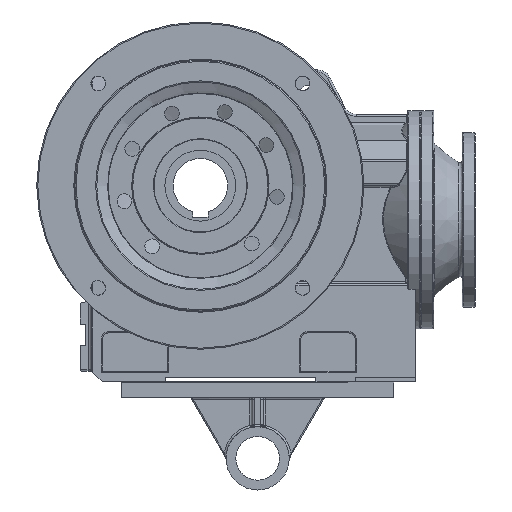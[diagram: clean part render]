
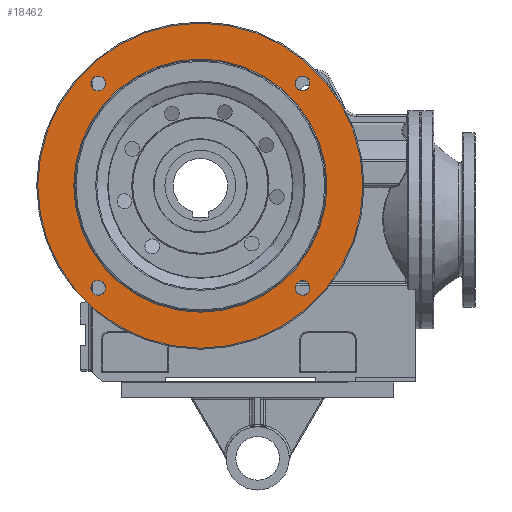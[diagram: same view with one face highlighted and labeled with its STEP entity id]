
A CAD part, front view. The second image highlights one B-rep face of the part: STEP entity #18462.
In plain terms, the highlighted planar face has unit normal (0, -1, 0).
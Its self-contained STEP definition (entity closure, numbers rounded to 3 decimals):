
#18027=CARTESIAN_POINT('',(-86.942,-41.,93.692));
#18028=VERTEX_POINT('',#18027);
#18029=CARTESIAN_POINT('',(-93.692,-41.,93.692));
#18030=DIRECTION('',(0.0,1.0,0.0));
#18031=DIRECTION('',(1.0,0.0,0.0));
#18032=AXIS2_PLACEMENT_3D('',#18029,#18030,#18031);
#18033=CIRCLE('',#18032,6.75);
#18034=EDGE_CURVE('',#18028,#18028,#18033,.T.);
#18095=CARTESIAN_POINT('',(-86.942,-41.,-93.692));
#18096=VERTEX_POINT('',#18095);
#18097=CARTESIAN_POINT('',(-93.692,-41.,-93.692));
#18098=DIRECTION('',(0.0,1.0,0.0));
#18099=DIRECTION('',(1.0,0.0,0.0));
#18100=AXIS2_PLACEMENT_3D('',#18097,#18098,#18099);
#18101=CIRCLE('',#18100,6.75);
#18102=EDGE_CURVE('',#18096,#18096,#18101,.T.);
#18163=CARTESIAN_POINT('',(100.442,-41.,-93.692));
#18164=VERTEX_POINT('',#18163);
#18165=CARTESIAN_POINT('',(93.692,-41.,-93.692));
#18166=DIRECTION('',(0.0,1.0,0.0));
#18167=DIRECTION('',(1.0,0.0,0.0));
#18168=AXIS2_PLACEMENT_3D('',#18165,#18166,#18167);
#18169=CIRCLE('',#18168,6.75);
#18170=EDGE_CURVE('',#18164,#18164,#18169,.T.);
#18231=CARTESIAN_POINT('',(100.442,-41.,93.692));
#18232=VERTEX_POINT('',#18231);
#18233=CARTESIAN_POINT('',(93.692,-41.,93.692));
#18234=DIRECTION('',(0.0,1.0,0.0));
#18235=DIRECTION('',(1.0,0.0,0.0));
#18236=AXIS2_PLACEMENT_3D('',#18233,#18234,#18235);
#18237=CIRCLE('',#18236,6.75);
#18238=EDGE_CURVE('',#18232,#18232,#18237,.T.);
#18416=CARTESIAN_POINT('',(-149.0,-41.,0.0));
#18417=VERTEX_POINT('',#18416);
#18418=CARTESIAN_POINT('',(0.0,-41.,0.0));
#18419=DIRECTION('',(0.0,1.0,0.0));
#18420=DIRECTION('',(1.0,0.0,0.0));
#18421=AXIS2_PLACEMENT_3D('',#18418,#18419,#18420);
#18422=CIRCLE('',#18421,149.0);
#18423=EDGE_CURVE('',#18417,#18417,#18422,.T.);
#18431=CARTESIAN_POINT('',(-132.5,-41.,0.));
#18432=DIRECTION('',(0.0,-1.0,0.0));
#18433=DIRECTION('',(0.0,0.0,-1.0));
#18434=AXIS2_PLACEMENT_3D('',#18431,#18432,#18433);
#18435=PLANE('',#18434);
#18436=ORIENTED_EDGE('',*,*,#18423,.F.);
#18437=EDGE_LOOP('',(#18436));
#18438=FACE_OUTER_BOUND('',#18437,.T.);
#18439=ORIENTED_EDGE('',*,*,#18034,.T.);
#18440=EDGE_LOOP('',(#18439));
#18441=FACE_BOUND('',#18440,.T.);
#18442=ORIENTED_EDGE('',*,*,#18102,.T.);
#18443=EDGE_LOOP('',(#18442));
#18444=FACE_BOUND('',#18443,.T.);
#18445=ORIENTED_EDGE('',*,*,#18170,.T.);
#18446=EDGE_LOOP('',(#18445));
#18447=FACE_BOUND('',#18446,.T.);
#18448=ORIENTED_EDGE('',*,*,#18238,.T.);
#18449=EDGE_LOOP('',(#18448));
#18450=FACE_BOUND('',#18449,.T.);
#18451=CARTESIAN_POINT('',(-116.0,-41.,0.));
#18452=VERTEX_POINT('',#18451);
#18453=CARTESIAN_POINT('',(0.0,-41.,0.0));
#18454=DIRECTION('',(0.0,-1.0,0.0));
#18455=DIRECTION('',(1.0,0.0,0.0));
#18456=AXIS2_PLACEMENT_3D('',#18453,#18454,#18455);
#18457=CIRCLE('',#18456,116.0);
#18458=EDGE_CURVE('',#18452,#18452,#18457,.T.);
#18459=ORIENTED_EDGE('',*,*,#18458,.F.);
#18460=EDGE_LOOP('',(#18459));
#18461=FACE_BOUND('',#18460,.T.);
#18462=ADVANCED_FACE('',(#18438,#18441,#18444,#18447,#18450,#18461),#18435,.T.);
